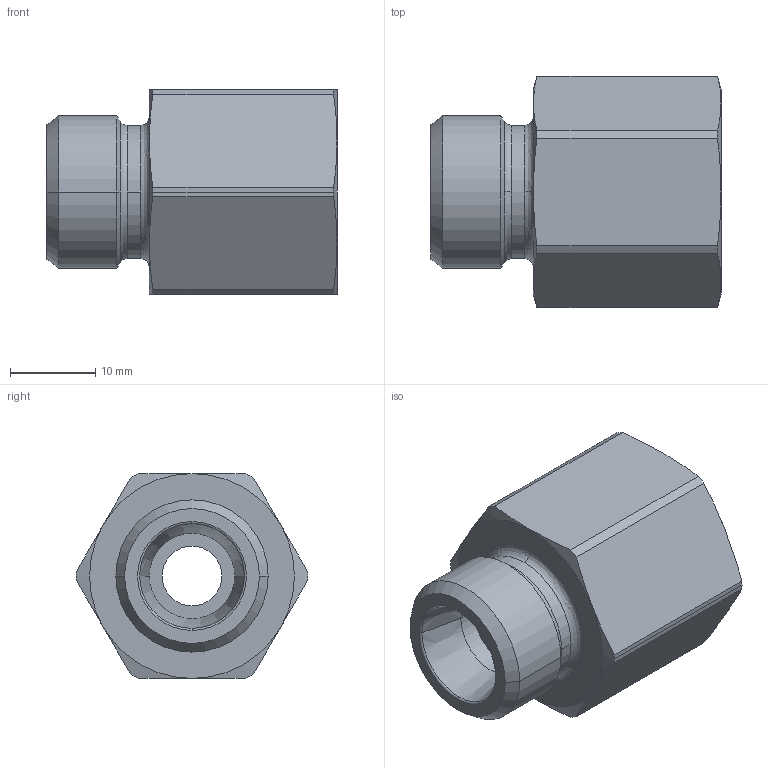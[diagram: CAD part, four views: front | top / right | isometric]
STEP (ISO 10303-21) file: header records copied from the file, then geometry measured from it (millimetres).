
FILE_DESCRIPTION((''),'2;1');
FILE_NAME('100716.stp','2007-10-30T15:10:15',(''),(''),'AutoCAD STEP 2000i','AutoCAD 2000i',', , ');
FILE_SCHEMA(('CONFIG_CONTROL_DESIGN'));
Length unit declared in the file: millimetre
Products named in the file (2): 100716.0; CHIAVE SMUSSATA#0
Assembly tree (1 placements, depth 2):
  100716.0
    CHIAVE SMUSSATA#0
Bounding box: 34 x 27.1 x 24 mm (x, y, z)
Volume: 9425.6 mm3; surface area: 4553.5 mm2
Topology: 1 solids, 1 shells, 56 faces, 134 edges, 82 vertices
Faces by surface type: cone 22, cylinder 18, plane 10, bspline 4, torus 2
Entity records: 1887 total; most frequent: CARTESIAN_POINT 498, DIRECTION 294, ORIENTED_EDGE 268, EDGE_CURVE 134, AXIS2_PLACEMENT_3D 130, VERTEX_POINT 82, CIRCLE 76, EDGE_LOOP 60
